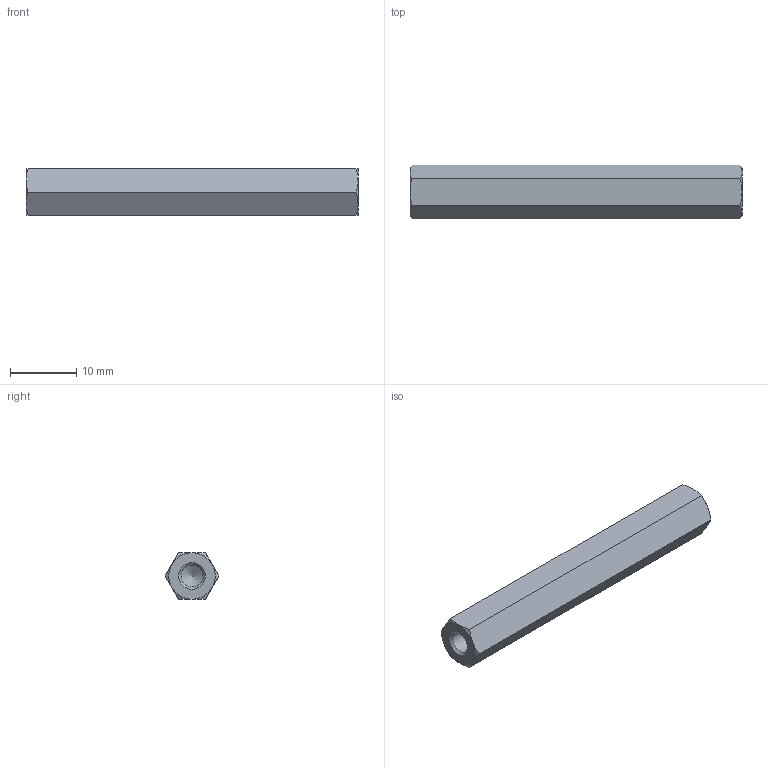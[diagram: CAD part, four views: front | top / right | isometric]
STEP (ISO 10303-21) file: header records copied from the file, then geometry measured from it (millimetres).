
FILE_DESCRIPTION( ( 'STEP AP203' ), '1' );
FILE_NAME( 'C:/Temp/Ganter_Step_05_03_2020/data/3_2/gn6220/gn6220_ni/Stainless Steel-Spacer GN 6220-NI-M4-50-A.stp', '2020-03-13T05:42:58', ( 'License CC BY-ND 4.0' ), ( 'CADENAS' ), ' ', 'PARTsolutions', ' ' );
FILE_SCHEMA( ( 'CONFIG_CONTROL_DESIGN' ) );
Length unit declared in the file: millimetre
Products named in the file (1): _Stainless Steel-Spacer GN 6220-NI-M4-50-A
Bounding box: 50 x 8.08 x 7 mm (x, y, z)
Volume: 1886.3 mm3; surface area: 1573 mm2
Topology: 1 solids, 1 shells, 26 faces, 57 edges, 33 vertices
Faces by surface type: cone 16, plane 8, cylinder 2
Full cylindrical faces by diameter (mm): 3.242 x2
Entity records: 750 total; most frequent: CARTESIAN_POINT 211, DIRECTION 96, ORIENTED_EDGE 96, EDGE_CURVE 48, AXIS2_PLACEMENT_3D 45, EDGE_LOOP 32, VERTEX_POINT 32, FACE_OUTER_BOUND 28
